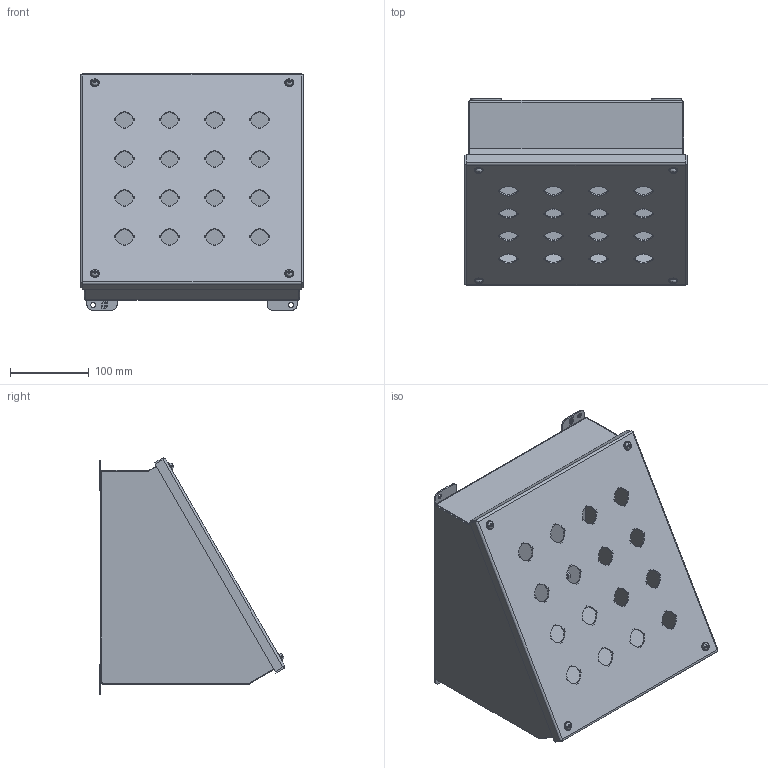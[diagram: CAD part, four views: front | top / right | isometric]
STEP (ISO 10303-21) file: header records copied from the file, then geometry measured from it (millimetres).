
FILE_DESCRIPTION(/* description */ ('Unknown'),/* implementation_level */ '2;1');
FILE_NAME(/* name */ '1490MJ16',/* time_stamp */ '2023-03-03T12:58:16-05:00',/* author */ ('Unknown'),/* organization */ ('Unknown'),/* preprocessor_version */ 'ST-DEVELOPER v18.102',/* originating_system */ 'Solid Edge',/* authorisation */ 'Unknown');
FILE_SCHEMA (('AUTOMOTIVE_DESIGN {1 0 10303 214 3 1 1}'));
Length unit declared in the file: millimetre
Products named in the file (24): 1490MJ16; AKT90316; WAM87960; SCS19475; COM71427-13; PNT11078; std26020; RVN01002; COM71382-1; COM44170-1; COM44185; COM50822; KIT95027; NTS17050; NTS16500; LAB30005; WAF250205; WAL251505; scs18968; QLB20279; COM44170; STD26152; GSK11032
Assembly tree (38 placements, depth 3):
  1490MJ16
    AKT90316  x4
      WAM87960
      SCS19475
    COM71427-13
      PNT11078
      std26020  x3
      COM71427-13
    RVN01002  x4
    COM71382-1  x2
    COM44170-1
    COM44185
    COM50822  x4
    KIT95027
      NTS17050
      NTS16500
      LAB30005
      WAF250205
      WAL251505
      scs18968
    QLB20279
    PNT11078
    COM44170
    STD26152
    NTS17050  x2
    GSK11032
Bounding box: 282.5 x 235.53 x 299.51 mm (x, y, z)
Volume: 721277.4 mm3; surface area: 774013.4 mm2
Topology: 35 solids, 35 shells, 1222 faces, 3280 edges, 2173 vertices
Faces by surface type: plane 867, cylinder 254, cone 54, torus 26, bspline 21
Full cylindrical faces by diameter (mm): 3.759 x4, 3.967 x5, 4.039 x4, 4.064 x4, 4.699 x1, 4.775 x3, 4.826 x4, 5.461 x1, 6.096 x4, 6.35 x13, 6.985 x4, 9.525 x2, 9.779 x1, 9.906 x4, 10.312 x4, 11.176 x4, 12.7 x1
Entity records: 28144 total; most frequent: CARTESIAN_POINT 7536, ORIENTED_EDGE 4212, DIRECTION 4010, EDGE_CURVE 2106, LINE 1520, VECTOR 1520, VERTEX_POINT 1415, AXIS2_PLACEMENT_3D 1245
